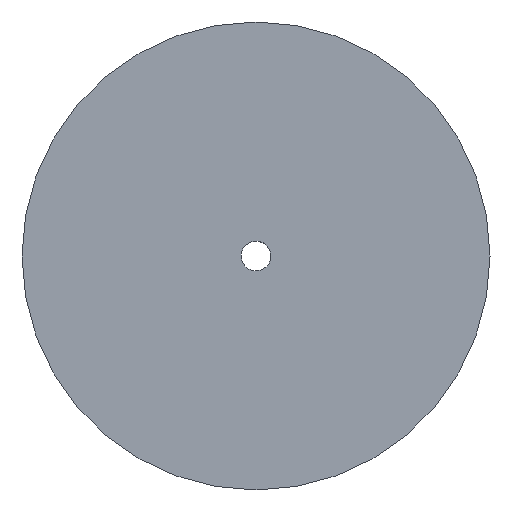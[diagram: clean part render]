
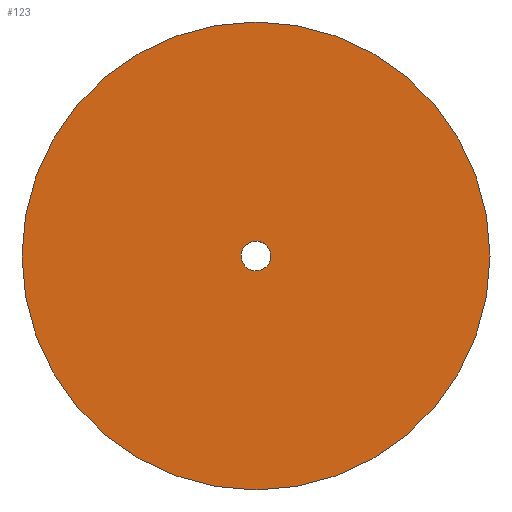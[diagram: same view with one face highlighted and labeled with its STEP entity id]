
A CAD part, top view. The second image highlights one B-rep face of the part: STEP entity #123.
In plain terms, the highlighted planar face has unit normal (0, 0, 1).
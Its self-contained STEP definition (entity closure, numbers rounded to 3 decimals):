
#62=CARTESIAN_POINT('Vertex',(-2.852,1.558,0.)) ;
#76=CARTESIAN_POINT('Vertex',(2.852,-1.558,0.)) ;
#79=CARTESIAN_POINT('Axis2P3D Location',(0.,0.,0.)) ;
#91=CARTESIAN_POINT('Axis2P3D Location',(0.,0.,0.)) ;
#96=CARTESIAN_POINT('Axis2P3D Location',(0.,0.,0.)) ;
#100=CARTESIAN_POINT('Vertex',(51.,0.,0.)) ;
#102=CARTESIAN_POINT('Vertex',(-51.,0.,0.)) ;
#105=CARTESIAN_POINT('Axis2P3D Location',(0.,0.,0.)) ;
#114=CARTESIAN_POINT('Axis2P3D Location',(0.,0.,0.)) ;
#80=DIRECTION('Axis2P3D Direction',(0.,-0.,-1.)) ;
#92=DIRECTION('Axis2P3D Direction',(0.,0.,1.)) ;
#93=DIRECTION('Axis2P3D XDirection',(1.,0.,0.)) ;
#97=DIRECTION('Axis2P3D Direction',(0.,0.,1.)) ;
#106=DIRECTION('Axis2P3D Direction',(0.,0.,1.)) ;
#115=DIRECTION('Axis2P3D Direction',(0.,0.,1.)) ;
#81=AXIS2_PLACEMENT_3D('Circle Axis2P3D',#79,#80,$) ;
#94=AXIS2_PLACEMENT_3D('Plane Axis2P3D',#91,#92,#93) ;
#98=AXIS2_PLACEMENT_3D('Circle Axis2P3D',#96,#97,$) ;
#107=AXIS2_PLACEMENT_3D('Circle Axis2P3D',#105,#106,$) ;
#116=AXIS2_PLACEMENT_3D('Circle Axis2P3D',#114,#115,$) ;
#111=ORIENTED_EDGE('',*,*,#104,.F.) ;
#112=ORIENTED_EDGE('',*,*,#109,.F.) ;
#120=ORIENTED_EDGE('',*,*,#118,.F.) ;
#121=ORIENTED_EDGE('',*,*,#83,.F.) ;
#122=FACE_BOUND('',#119,.T.) ;
#123=ADVANCED_FACE('PartBody',(#113,#122),#95,.T.) ;
#82=CIRCLE('generated circle',#81,3.25) ;
#99=CIRCLE('generated circle',#98,51.) ;
#108=CIRCLE('generated circle',#107,51.) ;
#117=CIRCLE('generated circle',#116,3.25) ;
#83=EDGE_CURVE('',#77,#63,#82,.F.) ;
#104=EDGE_CURVE('',#101,#103,#99,.F.) ;
#109=EDGE_CURVE('',#103,#101,#108,.F.) ;
#118=EDGE_CURVE('',#63,#77,#117,.T.) ;
#110=EDGE_LOOP('',(#111,#112)) ;
#119=EDGE_LOOP('',(#120,#121)) ;
#113=FACE_OUTER_BOUND('',#110,.T.) ;
#95=PLANE('',#94) ;
#63=VERTEX_POINT('',#62) ;
#77=VERTEX_POINT('',#76) ;
#101=VERTEX_POINT('',#100) ;
#103=VERTEX_POINT('',#102) ;
